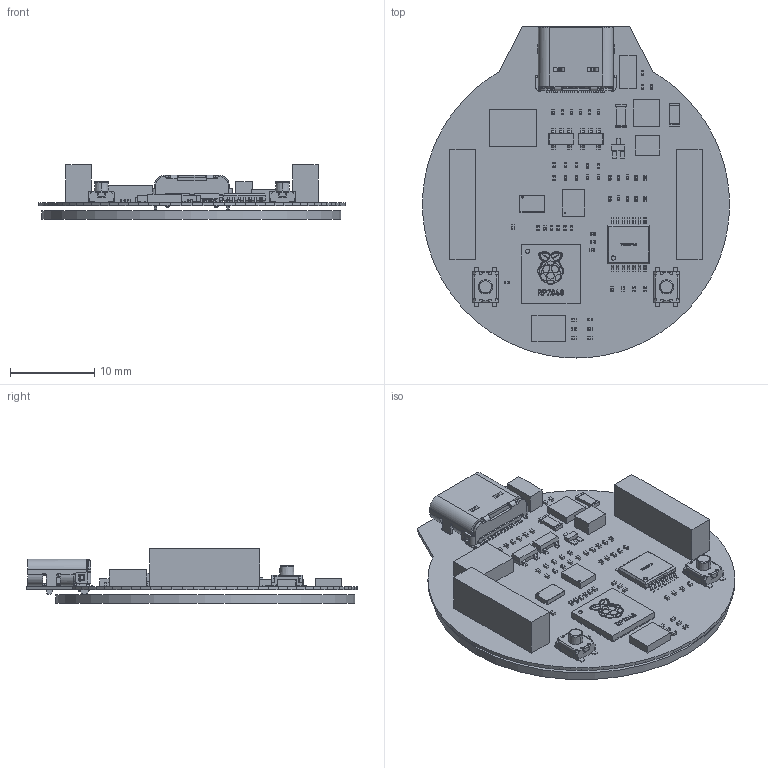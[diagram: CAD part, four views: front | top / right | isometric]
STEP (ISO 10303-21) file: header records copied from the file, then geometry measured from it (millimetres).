
FILE_DESCRIPTION(('Open CASCADE Model'),'2;1');
FILE_NAME('Open CASCADE Shape Model','2022-06-23T19:44:19',('Author'),( 'Open CASCADE'),'Open CASCADE STEP processor 6.5','Open CASCADE 6.5' ,'Unknown');
FILE_SCHEMA(('AUTOMOTIVE_DESIGN { 1 0 10303 214 1 1 1 1 }'));
Length unit declared in the file: millimetre
Products named in the file (137): PCB; Board; D1; 1333153024; Extruded; U4; 825394528; Cylinder; 1154565776; U5; TSSOP14; TSSOP14_呿极; ﾒｽﾅ_0.9; LOGOԲ0.25; U2; SW3DPS-SOT-23-5-DEFAULT; R15; User_Library-V0201HD; Anschl_X_FCsse_1; K_X_F6rper_1; R14; R13; R12; R11; Key2; ts-1185ec-a-e-a-1; Key1; H2; 1333152896; H1; C19; User_Library-Chip_Cap_MLCC_0201_(0603); C16; C15; C7; C6; C5; C4; X1; 1154566288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
Assembly tree (204 placements, depth 4):
  PCB
    Board
    D1
      1333153024
        Extruded
    U4
      825394528
        Cylinder
      1154565776
        Extruded
    U5
      TSSOP14
        TSSOP14_呿极
        ﾒｽﾅ_0.9  x14
        LOGOԲ0.25
    U2
      SW3DPS-SOT-23-5-DEFAULT
    R15
      User_Library-V0201HD
        Anschl_X_FCsse_1
        K_X_F6rper_1
    R14
      User_Library-V0201HD
        Anschl_X_FCsse_1
        K_X_F6rper_1
    R13
      User_Library-V0201HD
        Anschl_X_FCsse_1
        K_X_F6rper_1
    R12
      User_Library-V0201HD
        Anschl_X_FCsse_1
        K_X_F6rper_1
    R11
      User_Library-V0201HD
        Anschl_X_FCsse_1
        K_X_F6rper_1
    Key2
      ts-1185ec-a-e-a-1
    Key1
      ts-1185ec-a-e-a-1
    H2
      1333152896
        Extruded
    H1
      1333152896
        Extruded
    C19
      User_Library-Chip_Cap_MLCC_0201_(0603)
    C16
      User_Library-Chip_Cap_MLCC_0201_(0603)
    C15
      User_Library-Chip_Cap_MLCC_0201_(0603)
    C7
      User_Library-Chip_Cap_MLCC_0201_(0603)
    C6
      User_Library-Chip_Cap_MLCC_0201_(0603)
    C5
      User_Library-Chip_Cap_MLCC_0201_(0603)
    C4
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Bounding box: 36.52 x 39.51 x 6.5 mm (x, y, z)
Volume: 2140.5 mm3; surface area: 6216.6 mm2
Topology: 149 solids, 161 shells, 7963 faces, 20634 edges, 12686 vertices
Faces by surface type: plane 4675, cylinder 2347, bspline 691, torus 124, sphere 86, cone 40
Full cylindrical faces by diameter (mm): 0.2 x1, 0.762 x2, 35.6 x1
Entity records: 379599 total; most frequent: CARTESIAN_POINT 116917, DIRECTION 41864, LINE 29280, VECTOR 29280, ORIENTED_EDGE 25634, PCURVE 25634, DEFINITIONAL_REPRESENTATION 25634, EDGE_CURVE 12817
